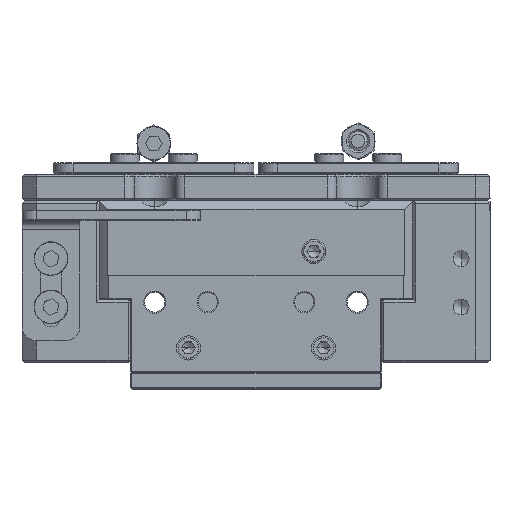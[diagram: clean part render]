
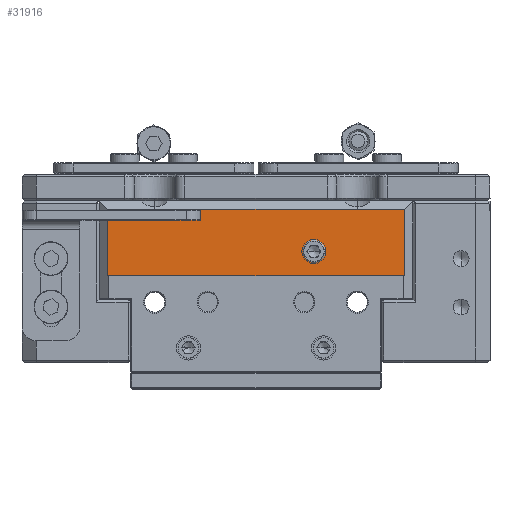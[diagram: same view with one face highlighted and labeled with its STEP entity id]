
A CAD part, top view. The second image highlights one B-rep face of the part: STEP entity #31916.
In plain terms, the highlighted planar face has unit normal (0, 0, 1).
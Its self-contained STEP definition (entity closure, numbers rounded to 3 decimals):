
#515 = EDGE_LOOP ( 'NONE', ( #23963, #12546 ) ) ;
#877 = DIRECTION ( 'NONE',  ( 1., 0., 0. ) ) ;
#2610 = CARTESIAN_POINT ( 'NONE',  ( 28.809, 23.5, 19.893 ) ) ;
#3468 = CARTESIAN_POINT ( 'NONE',  ( -1.891, 37.2, 19.893 ) ) ;
#3653 = ORIENTED_EDGE ( 'NONE', *, *, #43676, .T. ) ;
#4298 = FACE_BOUND ( 'NONE', #515, .T. ) ;
#4791 = EDGE_CURVE ( 'NONE', #24624, #42454, #6238, .T. ) ;
#5361 = AXIS2_PLACEMENT_3D ( 'NONE', #41226, #25874, #44887 ) ;
#5949 = EDGE_CURVE ( 'NONE', #26271, #46662, #8655, .T. ) ;
#6130 = LINE ( 'NONE', #14401, #39045 ) ;
#6238 = CIRCLE ( 'NONE', #41265, 2.1 ) ;
#6930 = CIRCLE ( 'NONE', #5361, 2.1 ) ;
#7577 = CARTESIAN_POINT ( 'NONE',  ( 28.809, 37.2, 19.893 ) ) ;
#8092 = VECTOR ( 'NONE', #13775, 1000. ) ;
#8273 = VERTEX_POINT ( 'NONE', #43646 ) ;
#8536 = ORIENTED_EDGE ( 'NONE', *, *, #5949, .T. ) ;
#8611 = DIRECTION ( 'NONE',  ( 1., 0., 0. ) ) ;
#8655 = LINE ( 'NONE', #3468, #31269 ) ;
#9109 = CARTESIAN_POINT ( 'NONE',  ( 10.109, 28.5, 19.893 ) ) ;
#9175 = AXIS2_PLACEMENT_3D ( 'NONE', #19161, #15754, #45230 ) ;
#10765 = ORIENTED_EDGE ( 'NONE', *, *, #36141, .T. ) ;
#12534 = CARTESIAN_POINT ( 'NONE',  ( 8.009, 28.5, 19.893 ) ) ;
#12546 = ORIENTED_EDGE ( 'NONE', *, *, #4791, .T. ) ;
#13775 = DIRECTION ( 'NONE',  ( 0., 1., 0. ) ) ;
#14401 = CARTESIAN_POINT ( 'NONE',  ( -32.591, 3.5, 19.893 ) ) ;
#15754 = DIRECTION ( 'NONE',  ( 0., 0., 1. ) ) ;
#16201 = DIRECTION ( 'NONE',  ( 0., 0., -1. ) ) ;
#17108 = LINE ( 'NONE', #41997, #45688 ) ;
#17445 = LINE ( 'NONE', #28903, #8092 ) ;
#19161 = CARTESIAN_POINT ( 'NONE',  ( -1.891, 3.5, 19.893 ) ) ;
#19525 = EDGE_LOOP ( 'NONE', ( #10765, #3653, #8536, #38850 ) ) ;
#23963 = ORIENTED_EDGE ( 'NONE', *, *, #33949, .T. ) ;
#24624 = VERTEX_POINT ( 'NONE', #12534 ) ;
#25044 = EDGE_CURVE ( 'NONE', #46662, #8273, #6130, .T. ) ;
#25874 = DIRECTION ( 'NONE',  ( 0., 0., -1. ) ) ;
#26271 = VERTEX_POINT ( 'NONE', #7577 ) ;
#28903 = CARTESIAN_POINT ( 'NONE',  ( 28.809, 3.5, 19.893 ) ) ;
#31269 = VECTOR ( 'NONE', #44895, 1000. ) ;
#31916 = ADVANCED_FACE ( 'NONE', ( #4298, #44496 ), #41328, .T. ) ;
#32714 = DIRECTION ( 'NONE',  ( 0., -1., 0. ) ) ;
#32915 = CARTESIAN_POINT ( 'NONE',  ( -32.591, 37.2, 19.893 ) ) ;
#33949 = EDGE_CURVE ( 'NONE', #42454, #24624, #6930, .T. ) ;
#36141 = EDGE_CURVE ( 'NONE', #8273, #46906, #17108, .T. ) ;
#38850 = ORIENTED_EDGE ( 'NONE', *, *, #25044, .T. ) ;
#39045 = VECTOR ( 'NONE', #32714, 1000. ) ;
#41226 = CARTESIAN_POINT ( 'NONE',  ( 10.109, 28.5, 19.893 ) ) ;
#41265 = AXIS2_PLACEMENT_3D ( 'NONE', #9109, #16201, #877 ) ;
#41328 = PLANE ( 'NONE',  #9175 ) ;
#41997 = CARTESIAN_POINT ( 'NONE',  ( -34.391, 23.5, 19.893 ) ) ;
#42454 = VERTEX_POINT ( 'NONE', #44270 ) ;
#43646 = CARTESIAN_POINT ( 'NONE',  ( -32.591, 23.5, 19.893 ) ) ;
#43676 = EDGE_CURVE ( 'NONE', #46906, #26271, #17445, .T. ) ;
#44270 = CARTESIAN_POINT ( 'NONE',  ( 12.209, 28.5, 19.893 ) ) ;
#44496 = FACE_OUTER_BOUND ( 'NONE', #19525, .T. ) ;
#44887 = DIRECTION ( 'NONE',  ( 1., 0., 0. ) ) ;
#44895 = DIRECTION ( 'NONE',  ( -1., 0., 0. ) ) ;
#45230 = DIRECTION ( 'NONE',  ( 1., 0., 0. ) ) ;
#45688 = VECTOR ( 'NONE', #8611, 1000. ) ;
#46662 = VERTEX_POINT ( 'NONE', #32915 ) ;
#46906 = VERTEX_POINT ( 'NONE', #2610 ) ;
